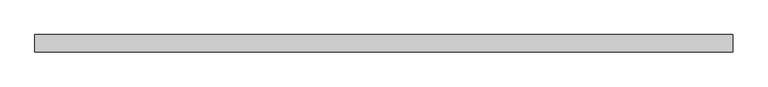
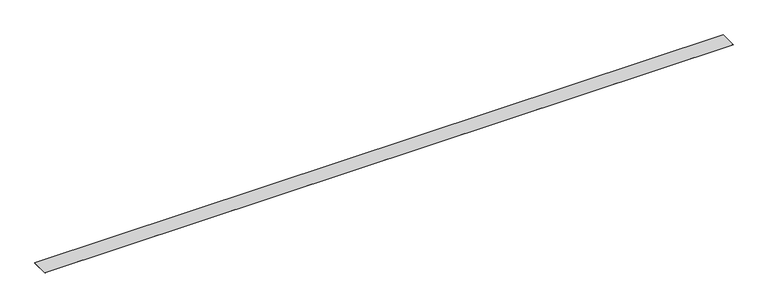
"""IFC4 building model written with IfcOpenShell, lengths in millimetres: proxy geometry, Sika® CarboDur® M914 : Sika® CarboDur® S1012."""

from ifc_helpers import new_model, si_unit, origin, origin_with_axes, place, context, project, spatial, polyline, outline, extrude, source, transform, mapped, element, save


def generic_models_c3372ec3(model_context):
    return source(origin(), model_context, "Body", "SweptSolid", [
        extrude(outline(polyline([(2000.0, 50.0), (2000.0, -50.0), (-2000.0, -50.0), (-2000.0, 50.0), (2000.0, 50.0)])), origin_with_axes(), (0.0, 0.0, 1.0), 1.2),
    ])


if __name__ == "__main__":
    model = new_model("IFC4")
    model_context = context("Model", 3, world=origin())
    ifc_project = project(units=[si_unit("LENGTHUNIT", "METRE", prefix="MILLI")], contexts=[model_context])
    site = spatial("IfcSite", under=ifc_project)
    building = spatial("IfcBuilding", under=site)
    placement = place(None, origin())
    generic_models_shape = generic_models_c3372ec3(model_context)
    element("IfcBuildingElementProxy", 1, Name="Sika® CarboDur® M914 : Sika® CarboDur® S1012", ObjectType="Sika® CarboDur® M914 : Sika® CarboDur® S1012", at=placement, inside=building, context=model_context, shape_type="MappedRepresentation", body=[
        mapped(generic_models_shape, transform((0.0, 0.0, 0.0), x_axis=(1.0, 0.0, 0.0), y_axis=(0.0, 1.0, 0.0), z_axis=(0.0, 0.0, 1.0))),
    ])
    save(model, "model.ifc")
